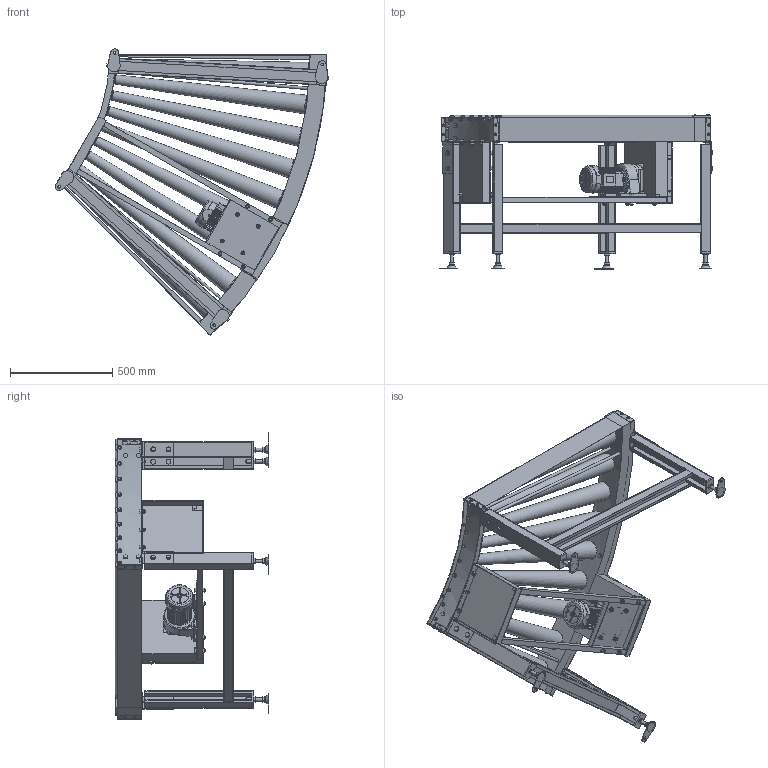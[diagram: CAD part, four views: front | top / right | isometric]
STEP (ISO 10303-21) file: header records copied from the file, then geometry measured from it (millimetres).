
FILE_DESCRIPTION( (''), '2;1');
FILE_NAME ('WEB-MCC3-45-1000-100-45°-L.stp','2025-07-18T07:45:20',(''),(''),'spGate 20.6.2 (****-****-****-****)','','');
FILE_SCHEMA (('AUTOMOTIVE_DESIGN'));
Length unit declared in the file: millimetre
Products named in the file (22): WEB-MCC3-45-1000-100-45_-L; TEMP_X_T-prt0; TEMP_X_T-prt1; TEMP_X_T-prt2; TEMP_X_T-prt3; TEMP_X_T-prt4; TEMP_X_T-prt5; TEMP_X_T-prt6; TEMP_X_T-prt7; TEMP_X_T-prt8; TEMP_X_T-prt9; TEMP_X_T-prt10; TEMP_X_T-prt11; TEMP_X_T-prt12; TEMP_X_T-prt13; TEMP_X_T-prt14; TEMP_X_T-prt15; TEMP_X_T-prt16; TEMP_X_T-prt17; TEMP_X_T-prt18; TEMP_X_T-prt19; TEMP_X_T-prt20
Assembly tree (21 placements, depth 2):
  WEB-MCC3-45-1000-100-45_-L
    TEMP_X_T-prt0
    TEMP_X_T-prt1
    TEMP_X_T-prt2
    TEMP_X_T-prt3
    TEMP_X_T-prt4
    TEMP_X_T-prt5
    TEMP_X_T-prt6
    TEMP_X_T-prt7
    TEMP_X_T-prt8
    TEMP_X_T-prt9
    TEMP_X_T-prt10
    TEMP_X_T-prt11
    TEMP_X_T-prt12
    TEMP_X_T-prt13
    TEMP_X_T-prt14
    TEMP_X_T-prt15
    TEMP_X_T-prt16
    TEMP_X_T-prt17
    TEMP_X_T-prt18
    TEMP_X_T-prt19
    TEMP_X_T-prt20
Bounding box: 1334.75 x 751 x 1397.24 mm (x, y, z)
Volume: 58770916 mm3; surface area: 6615758 mm2
Topology: 21 solids, 22 shells, 2615 faces, 6702 edges, 4435 vertices
Faces by surface type: plane 2025, cylinder 515, bspline 75
Full cylindrical faces by diameter (mm): 5 x4, 6 x20, 7 x8, 8 x6, 9.2 x4, 10 x46, 10.5 x4, 12 x11, 12.2 x12, 13 x12, 13.8 x12, 15 x1, 15.4 x19, 16 x16, 17.3 x9, 18 x14, 18.4 x24, 21 x4, 21.5 x1, 24 x8, 28 x10, 31 x1, 63 x1, 113.2 x1, 153 x1
Entity records: 140572 total; most frequent: CARTESIAN_POINT 21810, ORIENTED_EDGE 13402, DIRECTION 13114, COLOUR_RGB 9337, PRESENTATION_STYLE_ASSIGNMENT 9337, STYLED_ITEM 9337, EDGE_CURVE 6701, DRAUGHTING_PRE_DEFINED_CURVE_FONT 6701
